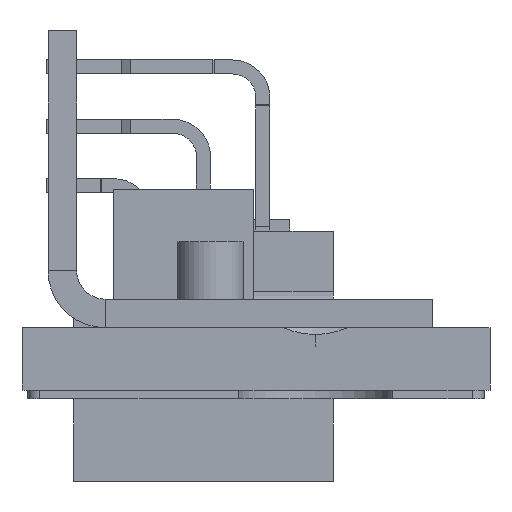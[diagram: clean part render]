
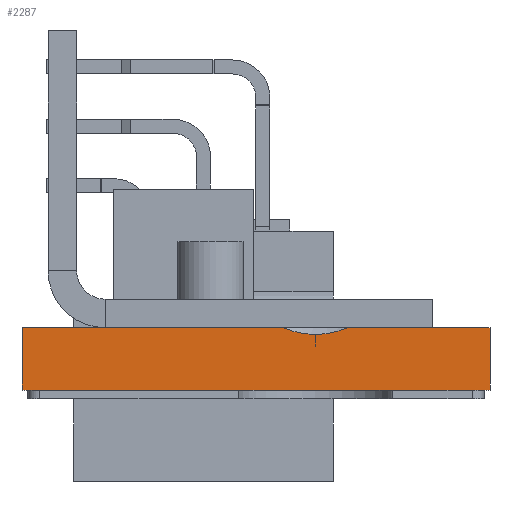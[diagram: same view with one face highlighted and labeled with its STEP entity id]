
A CAD part, front view. The second image highlights one B-rep face of the part: STEP entity #2287.
In plain terms, the highlighted planar face has unit normal (0, -1, 0).
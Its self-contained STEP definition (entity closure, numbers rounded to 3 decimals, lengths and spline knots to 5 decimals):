
#60=DIRECTION('',(1.,0.,0.));
#61=VECTOR('',#60,0.4398);
#62=CARTESIAN_POINT('',(-0.394,-2.532,0.105));
#63=LINE('',#62,#61);
#85=DIRECTION('',(1.,0.,0.));
#86=VECTOR('',#85,0.2398);
#87=CARTESIAN_POINT('',(0.1542,-2.532,0.105));
#88=LINE('',#87,#86);
#195=CARTESIAN_POINT('',(0.10003,-2.532,
0.0935));
#196=CARTESIAN_POINT('',(0.10179,-2.532,
0.0935));
#197=CARTESIAN_POINT('',(0.10534,-2.532,
0.09358));
#198=CARTESIAN_POINT('',(0.11072,-2.532,
0.09393));
#199=CARTESIAN_POINT('',(0.11614,-2.532,
0.09452));
#200=CARTESIAN_POINT('',(0.12158,-2.532,
0.09535));
#201=CARTESIAN_POINT('',(0.12704,-2.532,
0.09642));
#202=CARTESIAN_POINT('',(0.13251,-2.532,
0.09772));
#203=CARTESIAN_POINT('',(0.13796,-2.532,
0.09923));
#204=CARTESIAN_POINT('',(0.1434,-2.532,
0.10096));
#205=CARTESIAN_POINT('',(0.14883,-2.532,
0.10287));
#206=CARTESIAN_POINT('',(0.15241,-2.532,
0.10427));
#207=CARTESIAN_POINT('',(0.1542,-2.532,0.105));
#209=DIRECTION('',(0.,0.,1.));
#210=VECTOR('',#209,0.105);
#211=CARTESIAN_POINT('',(-0.394,-2.532,0.));
#212=LINE('',#211,#210);
#213=CARTESIAN_POINT('',(0.0458,-2.532,0.105));
#214=CARTESIAN_POINT('',(0.0476,-2.532,
0.10427));
#215=CARTESIAN_POINT('',(0.05121,-2.532,
0.10286));
#216=CARTESIAN_POINT('',(0.05667,-2.532,
0.10093));
#217=CARTESIAN_POINT('',(0.06214,-2.532,
0.0992));
#218=CARTESIAN_POINT('',(0.0676,-2.532,
0.09769));
#219=CARTESIAN_POINT('',(0.07307,-2.532,
0.0964));
#220=CARTESIAN_POINT('',(0.07853,-2.532,
0.09534));
#221=CARTESIAN_POINT('',(0.08396,-2.532,
0.09451));
#222=CARTESIAN_POINT('',(0.08937,-2.532,
0.09392));
#223=CARTESIAN_POINT('',(0.09473,-2.532,
0.09357));
#224=CARTESIAN_POINT('',(0.09827,-2.532,
0.0935));
#225=CARTESIAN_POINT('',(0.10003,-2.532,
0.0935));
#227=DIRECTION('',(0.,0.,1.));
#228=VECTOR('',#227,0.105);
#229=CARTESIAN_POINT('',(0.394,-2.532,0.));
#230=LINE('',#229,#228);
#235=DIRECTION('',(1.,0.,0.));
#236=VECTOR('',#235,0.788);
#237=CARTESIAN_POINT('',(-0.394,-2.532,0.));
#238=LINE('',#237,#236);
#1656=CARTESIAN_POINT('',(-0.394,-2.532,0.));
#1658=VERTEX_POINT('',#1656);
#1659=CARTESIAN_POINT('',(0.394,-2.532,0.));
#1660=VERTEX_POINT('',#1659);
#1664=CARTESIAN_POINT('',(-0.394,-2.532,0.105));
#1666=VERTEX_POINT('',#1664);
#1667=CARTESIAN_POINT('',(0.394,-2.532,0.105));
#1669=VERTEX_POINT('',#1667);
#1701=VERTEX_POINT('',#195);
#1702=VERTEX_POINT('',#207);
#1709=VERTEX_POINT('',#213);
#2269=CARTESIAN_POINT('',(-0.394,-2.532,0.));
#2270=DIRECTION('',(0.,-1.,0.));
#2271=DIRECTION('',(1.,0.,0.));
#2272=AXIS2_PLACEMENT_3D('',#2269,#2270,#2271);
#2273=PLANE('',#2272);
#2274=ORIENTED_EDGE('',*,*,#2257,.T.);
#2275=ORIENTED_EDGE('',*,*,#2172,.T.);
#2277=ORIENTED_EDGE('',*,*,#2276,.F.);
#2279=ORIENTED_EDGE('',*,*,#2278,.F.);
#2281=ORIENTED_EDGE('',*,*,#2280,.T.);
#2282=ORIENTED_EDGE('',*,*,#2158,.T.);
#2284=ORIENTED_EDGE('',*,*,#2283,.T.);
#2285=EDGE_LOOP('',(#2274,#2275,#2277,#2279,#2281,#2282,#2284));
#2286=FACE_OUTER_BOUND('',#2285,.F.);
#2287=ADVANCED_FACE('',(#2286),#2273,.T.);
#208=B_SPLINE_CURVE_WITH_KNOTS('',3,(#195,#196,#197,#198,#199,#200,#201,#202,
#203,#204,#205,#206,#207),.UNSPECIFIED.,.F.,.F.,(4,1,1,1,1,1,1,1,1,1,4),(0.,
0.1,0.2,0.3,0.4,0.5,0.6,0.7,0.8,0.9,1.),.UNSPECIFIED.);
#226=B_SPLINE_CURVE_WITH_KNOTS('',3,(#213,#214,#215,#216,#217,#218,#219,#220,
#221,#222,#223,#224,#225),.UNSPECIFIED.,.F.,.F.,(4,1,1,1,1,1,1,1,1,1,4),(0.,
0.1,0.2,0.3,0.4,0.5,0.6,0.7,0.8,0.9,1.),.UNSPECIFIED.);
#2158=EDGE_CURVE('',#1666,#1709,#63,.T.);
#2172=EDGE_CURVE('',#1702,#1669,#88,.T.);
#2257=EDGE_CURVE('',#1701,#1702,#208,.T.);
#2276=EDGE_CURVE('',#1660,#1669,#230,.T.);
#2278=EDGE_CURVE('',#1658,#1660,#238,.T.);
#2280=EDGE_CURVE('',#1658,#1666,#212,.T.);
#2283=EDGE_CURVE('',#1709,#1701,#226,.T.);
